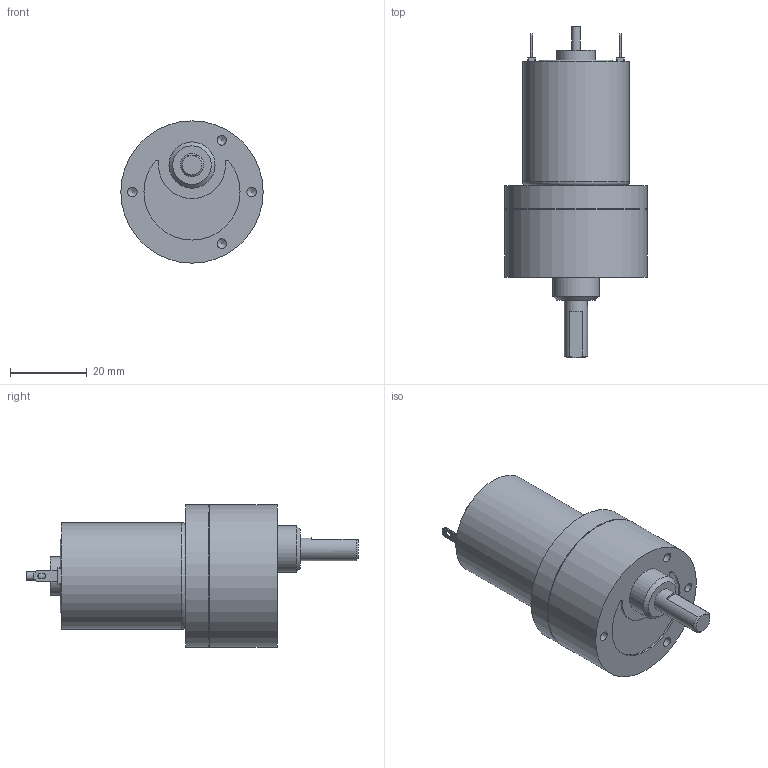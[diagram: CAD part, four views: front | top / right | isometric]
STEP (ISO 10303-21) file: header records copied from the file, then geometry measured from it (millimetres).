
FILE_DESCRIPTION((''),'2;1');
FILE_NAME('C:\Documents and Settings\SSEGAWA\デスクトップ\TP-2732D-HM-2.STP','2013-07-01T11:40:35',('SSEGAWA'),(''),'Autodesk Inventor 2010','Autodesk Inventor 2010','');
FILE_SCHEMA(('CONFIG_CONTROL_DESIGN'));
Length unit declared in the file: millimetre
Products named in the file (3): tp_2732def_hm_2; hm_2; tp_2732d,e,f
Assembly tree (2 placements, depth 2):
  tp_2732def_hm_2
    hm_2
    tp_2732d,e,f
Bounding box: 37 x 86.3 x 37 mm (x, y, z)
Volume: 46226.1 mm3; surface area: 10181 mm2
Topology: 2 solids, 2 shells, 147 faces, 323 edges, 206 vertices
Faces by surface type: plane 85, cylinder 35, bspline 21, torus 4, cone 2
Full cylindrical faces by diameter (mm): 2 x2, 2.305 x2, 2.5 x5, 6 x1, 9 x2, 10 x2, 12 x1, 19 x1, 26.7 x1, 27.7 x1, 36.6 x1, 37 x2
Entity records: 3949 total; most frequent: CARTESIAN_POINT 874, DIRECTION 629, ORIENTED_EDGE 538, EDGE_CURVE 269, AXIS2_PLACEMENT_3D 231, EDGE_LOOP 215, VERTEX_POINT 190, VECTOR 167
